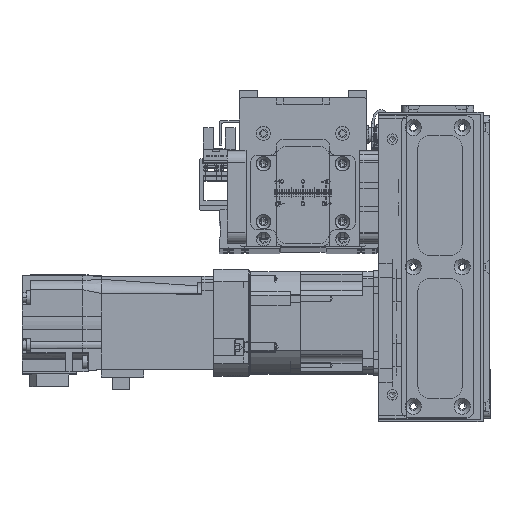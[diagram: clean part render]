
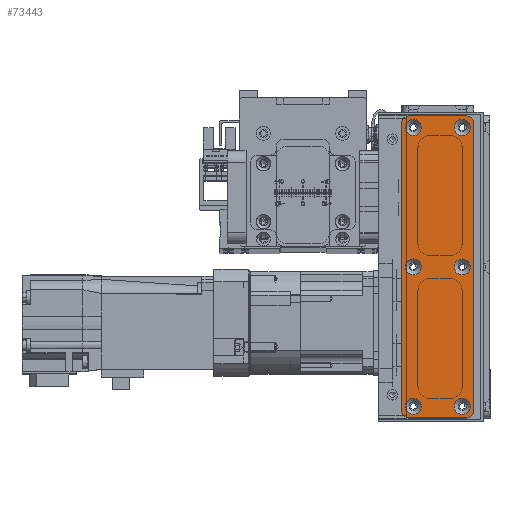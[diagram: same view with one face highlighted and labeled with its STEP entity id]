
A CAD part, top view. The second image highlights one B-rep face of the part: STEP entity #73443.
In plain terms, the highlighted planar face has unit normal (0, 0, 1).
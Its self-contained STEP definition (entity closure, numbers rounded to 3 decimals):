
#1853=FACE_BOUND('',#12784,.T.);
#1854=FACE_BOUND('',#12785,.T.);
#1855=FACE_BOUND('',#12786,.T.);
#1856=FACE_BOUND('',#12787,.T.);
#1857=FACE_BOUND('',#12788,.T.);
#1858=FACE_BOUND('',#12789,.T.);
#4398=PLANE('',#80750);
#8236=FACE_OUTER_BOUND('',#12783,.T.);
#12783=EDGE_LOOP('',(#68604,#68605,#68606,#68607,#68608,#68609,#68610,#68611));
#12784=EDGE_LOOP('',(#68612));
#12785=EDGE_LOOP('',(#68613));
#12786=EDGE_LOOP('',(#68614));
#12787=EDGE_LOOP('',(#68615));
#12788=EDGE_LOOP('',(#68616));
#12789=EDGE_LOOP('',(#68617));
#15623=CIRCLE('',#80704,3.45);
#15626=CIRCLE('',#80709,3.45);
#15629=CIRCLE('',#80714,3.45);
#15632=CIRCLE('',#80719,3.45);
#15635=CIRCLE('',#80724,3.45);
#15638=CIRCLE('',#80729,3.45);
#15645=CIRCLE('',#80739,3.);
#15646=CIRCLE('',#80742,3.);
#15647=CIRCLE('',#80745,3.);
#15648=CIRCLE('',#80748,3.);
#23097=LINE('',#126923,#30555);
#23100=LINE('',#126931,#30558);
#23103=LINE('',#126939,#30561);
#23106=LINE('',#126946,#30564);
#30555=VECTOR('',#101077,10.);
#30558=VECTOR('',#101086,10.);
#30561=VECTOR('',#101095,10.);
#30564=VECTOR('',#101104,10.);
#37381=VERTEX_POINT('',#126839);
#37384=VERTEX_POINT('',#126849);
#37387=VERTEX_POINT('',#126859);
#37390=VERTEX_POINT('',#126869);
#37393=VERTEX_POINT('',#126879);
#37396=VERTEX_POINT('',#126889);
#37407=VERTEX_POINT('',#126916);
#37408=VERTEX_POINT('',#126918);
#37409=VERTEX_POINT('',#126922);
#37410=VERTEX_POINT('',#126926);
#37411=VERTEX_POINT('',#126930);
#37412=VERTEX_POINT('',#126934);
#37413=VERTEX_POINT('',#126938);
#37414=VERTEX_POINT('',#126942);
#47762=EDGE_CURVE('',#37381,#37381,#15623,.T.);
#47767=EDGE_CURVE('',#37384,#37384,#15626,.T.);
#47772=EDGE_CURVE('',#37387,#37387,#15629,.T.);
#47777=EDGE_CURVE('',#37390,#37390,#15632,.T.);
#47782=EDGE_CURVE('',#37393,#37393,#15635,.T.);
#47787=EDGE_CURVE('',#37396,#37396,#15638,.T.);
#47801=EDGE_CURVE('',#37408,#37407,#15645,.T.);
#47803=EDGE_CURVE('',#37409,#37408,#23097,.T.);
#47805=EDGE_CURVE('',#37410,#37409,#15646,.T.);
#47807=EDGE_CURVE('',#37411,#37410,#23100,.T.);
#47809=EDGE_CURVE('',#37412,#37411,#15647,.T.);
#47811=EDGE_CURVE('',#37413,#37412,#23103,.T.);
#47813=EDGE_CURVE('',#37414,#37413,#15648,.T.);
#47815=EDGE_CURVE('',#37407,#37414,#23106,.T.);
#68604=ORIENTED_EDGE('',*,*,#47815,.T.);
#68605=ORIENTED_EDGE('',*,*,#47813,.T.);
#68606=ORIENTED_EDGE('',*,*,#47811,.T.);
#68607=ORIENTED_EDGE('',*,*,#47809,.T.);
#68608=ORIENTED_EDGE('',*,*,#47807,.T.);
#68609=ORIENTED_EDGE('',*,*,#47805,.T.);
#68610=ORIENTED_EDGE('',*,*,#47803,.T.);
#68611=ORIENTED_EDGE('',*,*,#47801,.T.);
#68612=ORIENTED_EDGE('',*,*,#47762,.T.);
#68613=ORIENTED_EDGE('',*,*,#47767,.T.);
#68614=ORIENTED_EDGE('',*,*,#47772,.T.);
#68615=ORIENTED_EDGE('',*,*,#47777,.T.);
#68616=ORIENTED_EDGE('',*,*,#47782,.T.);
#68617=ORIENTED_EDGE('',*,*,#47787,.T.);
#73443=ADVANCED_FACE('',(#8236,#1853,#1854,#1855,#1856,#1857,#1858),#4398,
 .T.);
#80704=AXIS2_PLACEMENT_3D('',#126840,#100985,#100986);
#80709=AXIS2_PLACEMENT_3D('',#126850,#100997,#100998);
#80714=AXIS2_PLACEMENT_3D('',#126860,#101009,#101010);
#80719=AXIS2_PLACEMENT_3D('',#126870,#101021,#101022);
#80724=AXIS2_PLACEMENT_3D('',#126880,#101033,#101034);
#80729=AXIS2_PLACEMENT_3D('',#126890,#101045,#101046);
#80739=AXIS2_PLACEMENT_3D('',#126919,#101072,#101073);
#80742=AXIS2_PLACEMENT_3D('',#126927,#101081,#101082);
#80745=AXIS2_PLACEMENT_3D('',#126935,#101090,#101091);
#80748=AXIS2_PLACEMENT_3D('',#126943,#101099,#101100);
#80750=AXIS2_PLACEMENT_3D('',#126947,#101105,#101106);
#100985=DIRECTION('center_axis',(0.,0.,-1.));
#100986=DIRECTION('ref_axis',(1.,0.,0.));
#100997=DIRECTION('center_axis',(0.,0.,-1.));
#100998=DIRECTION('ref_axis',(1.,0.,0.));
#101009=DIRECTION('center_axis',(0.,0.,-1.));
#101010=DIRECTION('ref_axis',(1.,0.,0.));
#101021=DIRECTION('center_axis',(0.,0.,-1.));
#101022=DIRECTION('ref_axis',(1.,0.,0.));
#101033=DIRECTION('center_axis',(0.,0.,-1.));
#101034=DIRECTION('ref_axis',(1.,0.,0.));
#101045=DIRECTION('center_axis',(0.,0.,-1.));
#101046=DIRECTION('ref_axis',(1.,0.,0.));
#101072=DIRECTION('center_axis',(0.,0.,1.));
#101073=DIRECTION('ref_axis',(0.,1.,0.));
#101077=DIRECTION('',(-1.,0.,0.));
#101081=DIRECTION('center_axis',(0.,0.,1.));
#101082=DIRECTION('ref_axis',(1.,0.,0.));
#101086=DIRECTION('',(0.,1.,0.));
#101090=DIRECTION('center_axis',(0.,0.,1.));
#101091=DIRECTION('ref_axis',(0.,-1.,0.));
#101095=DIRECTION('',(1.,0.,0.));
#101099=DIRECTION('center_axis',(0.,0.,1.));
#101100=DIRECTION('ref_axis',(-1.,0.,0.));
#101104=DIRECTION('',(0.,-1.,0.));
#101105=DIRECTION('center_axis',(0.,0.,1.));
#101106=DIRECTION('ref_axis',(1.,0.,0.));
#126839=CARTESIAN_POINT('',(-3.45,10.5,1.5));
#126840=CARTESIAN_POINT('Origin',(0.,10.5,1.5));
#126849=CARTESIAN_POINT('',(56.55,-10.5,1.5));
#126850=CARTESIAN_POINT('Origin',(60.,-10.5,1.5));
#126859=CARTESIAN_POINT('',(-63.45,10.5,1.5));
#126860=CARTESIAN_POINT('Origin',(-60.,10.5,1.5));
#126869=CARTESIAN_POINT('',(56.55,10.5,1.5));
#126870=CARTESIAN_POINT('Origin',(60.,10.5,1.5));
#126879=CARTESIAN_POINT('',(-63.45,-10.5,1.5));
#126880=CARTESIAN_POINT('Origin',(-60.,-10.5,1.5));
#126889=CARTESIAN_POINT('',(-3.45,-10.5,1.5));
#126890=CARTESIAN_POINT('Origin',(0.,-10.5,1.5));
#126916=CARTESIAN_POINT('',(-65.,12.5,1.5));
#126918=CARTESIAN_POINT('',(-62.,15.5,1.5));
#126919=CARTESIAN_POINT('Origin',(-62.,12.5,1.5));
#126922=CARTESIAN_POINT('',(62.,15.5,1.5));
#126923=CARTESIAN_POINT('',(62.,15.5,1.5));
#126926=CARTESIAN_POINT('',(65.,12.5,1.5));
#126927=CARTESIAN_POINT('Origin',(62.,12.5,1.5));
#126930=CARTESIAN_POINT('',(65.,-12.5,1.5));
#126931=CARTESIAN_POINT('',(65.,-12.5,1.5));
#126934=CARTESIAN_POINT('',(62.,-15.5,1.5));
#126935=CARTESIAN_POINT('Origin',(62.,-12.5,1.5));
#126938=CARTESIAN_POINT('',(-62.,-15.5,1.5));
#126939=CARTESIAN_POINT('',(-62.,-15.5,1.5));
#126942=CARTESIAN_POINT('',(-65.,-12.5,1.5));
#126943=CARTESIAN_POINT('Origin',(-62.,-12.5,1.5));
#126946=CARTESIAN_POINT('',(-65.,12.5,1.5));
#126947=CARTESIAN_POINT('Origin',(0.,0.,
1.5));
